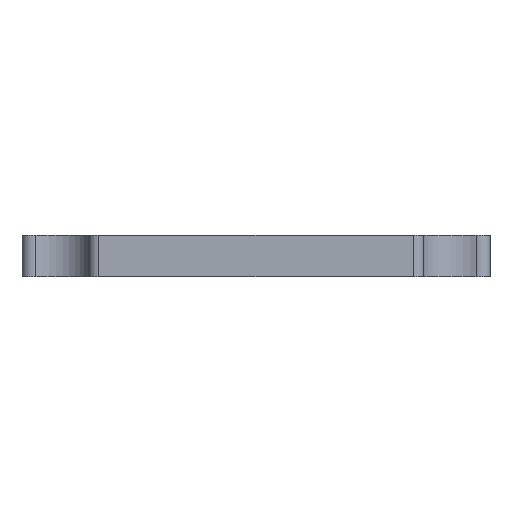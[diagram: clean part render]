
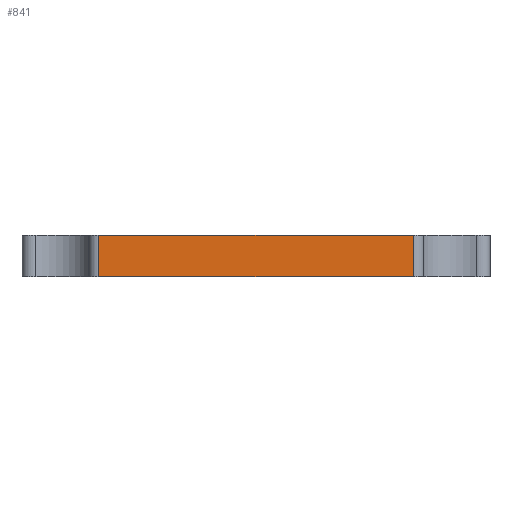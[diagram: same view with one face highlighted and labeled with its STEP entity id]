
A CAD part, front view. The second image highlights one B-rep face of the part: STEP entity #841.
In plain terms, the highlighted planar face has unit normal (0, -1, 0).
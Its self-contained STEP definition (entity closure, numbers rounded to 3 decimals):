
#27 = CARTESIAN_POINT ( 'NONE',  ( 0., 531.877, 2. ) ) ;
#96 = EDGE_CURVE ( 'NONE', #492, #315, #242, .T. ) ;
#105 = LINE ( 'NONE', #412, #372 ) ;
#224 = VECTOR ( 'NONE', #780, 1000. ) ;
#242 = LINE ( 'NONE', #1286, #224 ) ;
#255 = LINE ( 'NONE', #768, #316 ) ;
#269 = DIRECTION ( 'NONE',  ( 0., 0., -1. ) ) ;
#292 = ORIENTED_EDGE ( 'NONE', *, *, #494, .T. ) ;
#315 = VERTEX_POINT ( 'NONE', #509 ) ;
#316 = VECTOR ( 'NONE', #687, 1000. ) ;
#360 = VERTEX_POINT ( 'NONE', #793 ) ;
#361 = LINE ( 'NONE', #788, #1060 ) ;
#372 = VECTOR ( 'NONE', #1020, 1000. ) ;
#412 = CARTESIAN_POINT ( 'NONE',  ( 0., 531.877, 2. ) ) ;
#431 = EDGE_CURVE ( 'NONE', #991, #315, #361, .T. ) ;
#432 = ORIENTED_EDGE ( 'NONE', *, *, #431, .F. ) ;
#492 = VERTEX_POINT ( 'NONE', #1087 ) ;
#494 = EDGE_CURVE ( 'NONE', #360, #492, #255, .T. ) ;
#509 = CARTESIAN_POINT ( 'NONE',  ( -3333.886, 531.877, 0. ) ) ;
#531 = CARTESIAN_POINT ( 'NONE',  ( -3333.886, 531.877, 2. ) ) ;
#540 = FACE_OUTER_BOUND ( 'NONE', #804, .T. ) ;
#687 = DIRECTION ( 'NONE',  ( 0., 0., -1. ) ) ;
#696 = ORIENTED_EDGE ( 'NONE', *, *, #968, .F. ) ;
#768 = CARTESIAN_POINT ( 'NONE',  ( -3349.232, 531.877, 2. ) ) ;
#780 = DIRECTION ( 'NONE',  ( 1., 0., 0. ) ) ;
#788 = CARTESIAN_POINT ( 'NONE',  ( -3333.886, 531.877, 2. ) ) ;
#793 = CARTESIAN_POINT ( 'NONE',  ( -3349.232, 531.877, 2. ) ) ;
#804 = EDGE_LOOP ( 'NONE', ( #945, #432, #696, #292 ) ) ;
#841 = ADVANCED_FACE ( 'NONE', ( #540 ), #943, .F. ) ;
#843 = DIRECTION ( 'NONE',  ( 1., 0., 0. ) ) ;
#850 = AXIS2_PLACEMENT_3D ( 'NONE', #27, #1260, #843 ) ;
#943 = PLANE ( 'NONE',  #850 ) ;
#945 = ORIENTED_EDGE ( 'NONE', *, *, #96, .T. ) ;
#968 = EDGE_CURVE ( 'NONE', #360, #991, #105, .T. ) ;
#991 = VERTEX_POINT ( 'NONE', #531 ) ;
#1020 = DIRECTION ( 'NONE',  ( 1., 0., 0. ) ) ;
#1060 = VECTOR ( 'NONE', #269, 1000. ) ;
#1087 = CARTESIAN_POINT ( 'NONE',  ( -3349.232, 531.877, 0. ) ) ;
#1260 = DIRECTION ( 'NONE',  ( 0., 1., 0. ) ) ;
#1286 = CARTESIAN_POINT ( 'NONE',  ( 0., 531.877, 0. ) ) ;
